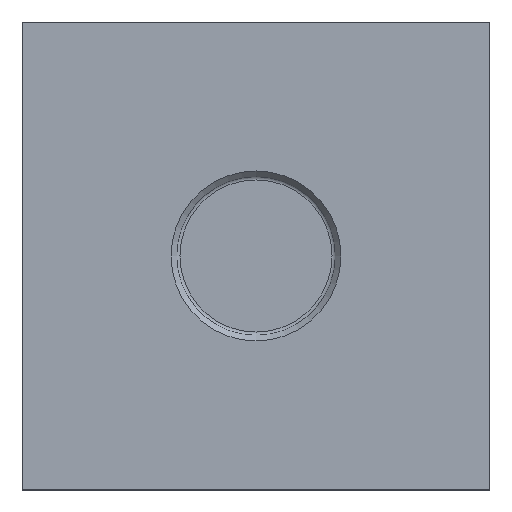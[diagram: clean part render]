
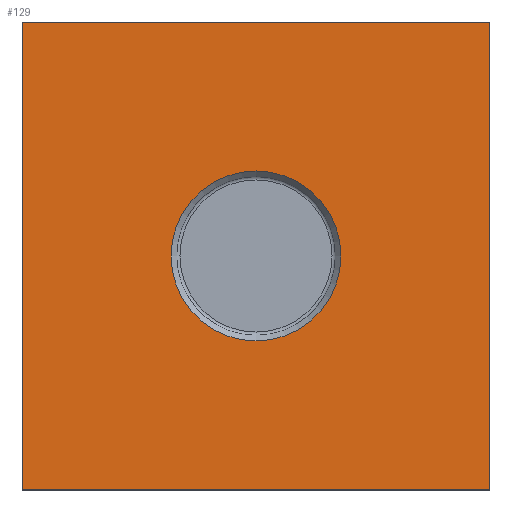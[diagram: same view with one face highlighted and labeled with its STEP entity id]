
A CAD part, top view. The second image highlights one B-rep face of the part: STEP entity #129.
In plain terms, the highlighted planar face has unit normal (0, 0, 1).
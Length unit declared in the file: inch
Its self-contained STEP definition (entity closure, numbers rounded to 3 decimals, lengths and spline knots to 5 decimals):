
#24=CARTESIAN_POINT('',(11.0505,11.5615,-8.669));
#25=VERTEX_POINT('',#24);
#34=CARTESIAN_POINT('',(10.0505,11.5615,-8.669));
#35=VERTEX_POINT('',#34);
#36=CARTESIAN_POINT('',(0.,11.5615,-8.669));
#37=DIRECTION('',(1.,0.,0.));
#38=VECTOR('',#37,1.);
#39=LINE('',#36,#38);
#40=EDGE_CURVE('',#35,#25,#39,.T.);
#65=CARTESIAN_POINT('',(10.0505,12.5615,-8.669));
#66=VERTEX_POINT('',#65);
#67=CARTESIAN_POINT('',(10.0505,0.,-8.669));
#68=DIRECTION('',(0.,-1.,0.));
#69=VECTOR('',#68,1.);
#70=LINE('',#67,#69);
#71=EDGE_CURVE('',#66,#35,#70,.T.);
#95=ORIENTED_EDGE('',*,*,#40,.T.);
#96=CARTESIAN_POINT('',(11.0505,12.5615,-8.669));
#97=VERTEX_POINT('',#96);
#98=CARTESIAN_POINT('',(11.0505,0.,-8.669));
#99=DIRECTION('',(0.,1.,0.));
#100=VECTOR('',#99,1.);
#101=LINE('',#98,#100);
#102=EDGE_CURVE('',#25,#97,#101,.T.);
#103=ORIENTED_EDGE('',*,*,#102,.T.);
#104=CARTESIAN_POINT('',(0.,12.5615,-8.669));
#105=DIRECTION('',(-1.,0.,0.));
#106=VECTOR('',#105,1.);
#107=LINE('',#104,#106);
#108=EDGE_CURVE('',#97,#66,#107,.T.);
#109=ORIENTED_EDGE('',*,*,#108,.T.);
#110=ORIENTED_EDGE('',*,*,#71,.T.);
#111=EDGE_LOOP('',(#95,#103,#109,#110));
#112=FACE_OUTER_BOUND('',#111,.T.);
#113=CARTESIAN_POINT('',(10.5505,11.87986,-8.669));
#114=VERTEX_POINT('',#113);
#115=CARTESIAN_POINT('',(10.5505,12.0615,-8.669));
#116=DIRECTION('',(0.,0.,-1.));
#117=DIRECTION('',(0.,1.,0.));
#118=AXIS2_PLACEMENT_3D('',#115,#116,#117);
#119=CIRCLE('',#118,0.18164);
#120=EDGE_CURVE('',#114,#114,#119,.T.);
#121=ORIENTED_EDGE('',*,*,#120,.T.);
#122=EDGE_LOOP('',(#121));
#123=FACE_BOUND('',#122,.T.);
#124=CARTESIAN_POINT('',(14.7275,13.6415,-8.669));
#125=DIRECTION('',(0.,0.,-1.));
#126=DIRECTION('',(0.,-1.,0.));
#127=AXIS2_PLACEMENT_3D('',#124,#125,#126);
#128=PLANE('',#127);
#129=ADVANCED_FACE('',(#112,#123),#128,.F.);
